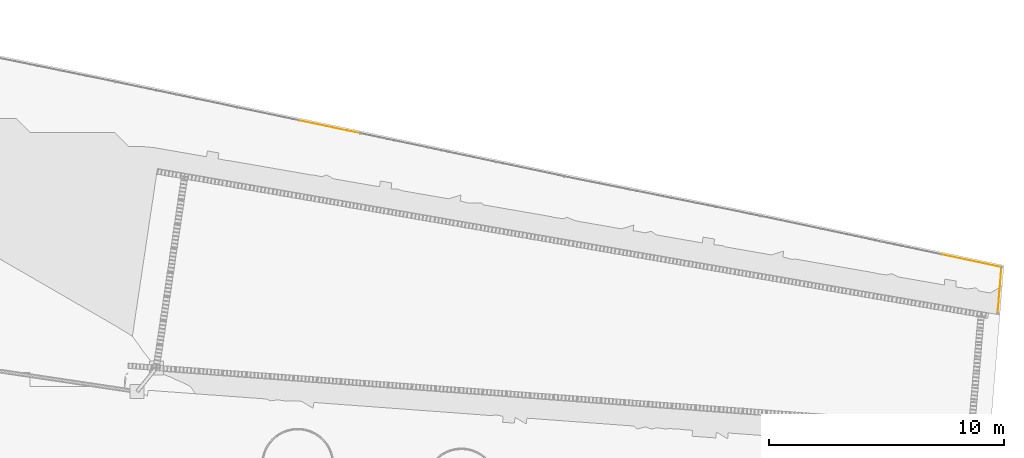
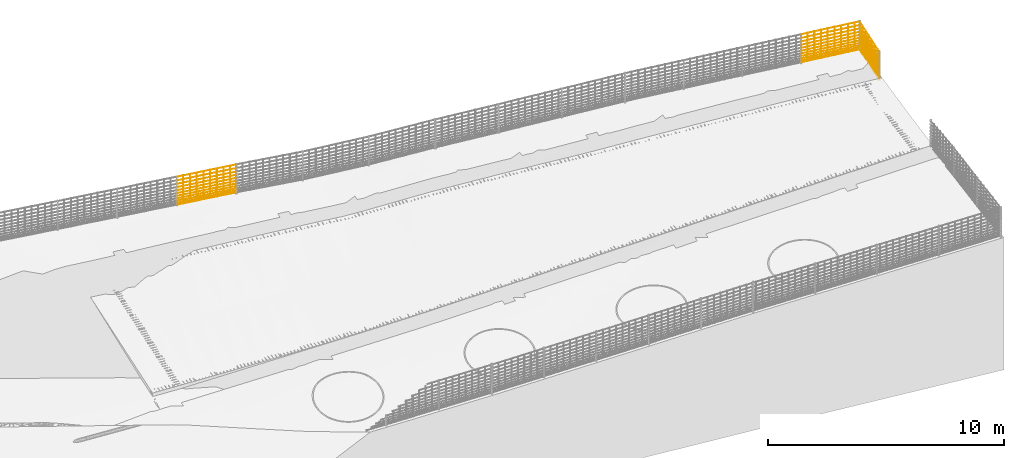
# Not in any storey, part 52 of 72: 3 railings.
"""IFC4 model written with IfcOpenShell, lengths in metres."""

from ifc_helpers import new_model, si_unit, direction, frame, origin_with_axes, place, context, subcontext, project, spatial, polygons, material, element, save


model = new_model("IFC4")

# Units and contexts
model_context = context("Model", 3, precision=1e-05, world=origin_with_axes(), true_north=direction((0.0, 1.0)))
body_context = subcontext(model_context, "Body", "Model", "MODEL_VIEW")
ifc_project = project(units=[si_unit("AREAUNIT", "SQUARE_METRE"), si_unit("VOLUMEUNIT", "CUBIC_METRE"), si_unit("LENGTHUNIT", "METRE")], contexts=[model_context])

# Site
site_placement = place(None, origin_with_axes())
site = spatial("IfcSite", under=ifc_project, at=site_placement, Name="Lares · Rua das Mercês · artigo 4771")

# Railings
ifc_material = material(Name="Aço galvanizado / Stahl verzinkt", Category="steel")
railing_1_placement = place(site_placement, frame((0.0, 0.0, 0.0), z_axis=(0.0, 0.0, 1.0), x_axis=(1.0, -1.03767253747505e-17, 0.0)))
element("IfcRailing", 1, at=railing_1_placement, inside=site, material=ifc_material, Name="Vedação · rede ovelheira 1.071", ObjectType="SHEEP_WIRE_FENCE", PredefinedType="USERDEFINED", context=body_context, shape_type="Tessellation", body=[
    polygons([(53.907056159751, 13.7524632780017, 15.3043091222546), (53.9073961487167, 13.7539246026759, 15.3028094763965), (53.9076723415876, 13.7553993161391, 15.3043091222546), (53.9073323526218, 13.7539379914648, 15.3058087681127), (56.5071773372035, 13.2067798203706, 15.3620506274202), (56.5075173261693, 13.2082411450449, 15.3605509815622), (56.5077935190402, 13.209715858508, 15.3620506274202), (56.5074535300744, 13.2082545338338, 15.3635502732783), (53.907056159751, 13.7524632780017, 15.4043091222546), (53.9073961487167, 13.7539246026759, 15.4028094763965), (53.9076723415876, 13.7553993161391, 15.4043091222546), (53.9073323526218, 13.7539379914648, 15.4058087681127), (56.5071773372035, 13.2067798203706, 15.4620506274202), (56.5075173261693, 13.2082411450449, 15.4605509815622), (56.5077935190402, 13.209715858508, 15.4620506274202), (56.5074535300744, 13.2082545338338, 15.4635502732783), (53.907056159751, 13.7524632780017, 15.5143091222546), (53.9073961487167, 13.7539246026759, 15.5128094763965), (53.9076723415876, 13.7553993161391, 15.5143091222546), (53.9073323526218, 13.7539379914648, 15.5158087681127), (56.5071773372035, 13.2067798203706, 15.5720506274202), (56.5075173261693, 13.2082411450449, 15.5705509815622), (56.5077935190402, 13.209715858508, 15.5720506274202), (56.5074535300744, 13.2082545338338, 15.5735502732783), (53.907056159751, 13.7524632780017, 15.6343091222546), (53.9073961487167, 13.7539246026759, 15.6328094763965), (53.9076723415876, 13.7553993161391, 15.6343091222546), (53.9073323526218, 13.7539379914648, 15.6358087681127), (56.5071773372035, 13.2067798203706, 15.6920506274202), (56.5075173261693, 13.2082411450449, 15.6905509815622), (56.5077935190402, 13.209715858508, 15.6920506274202), (56.5074535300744, 13.2082545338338, 15.6935502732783), (53.907056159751, 13.7524632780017, 15.7643091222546), (53.9073961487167, 13.7539246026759, 15.7628094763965), (53.9076723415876, 13.7553993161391, 15.7643091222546), (53.9073323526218, 13.7539379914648, 15.7658087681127), (56.5071773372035, 13.2067798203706, 15.8220506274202), (56.5075173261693, 13.2082411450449, 15.8205509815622), (56.5077935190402, 13.209715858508, 15.8220506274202), (56.5074535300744, 13.2082545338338, 15.8235502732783), (53.907056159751, 13.7524632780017, 15.9043091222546), (53.9073961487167, 13.7539246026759, 15.9028094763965), (53.9076723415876, 13.7553993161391, 15.9043091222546), (53.9073323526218, 13.7539379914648, 15.9058087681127), (56.5071773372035, 13.2067798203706, 15.9620506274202), (56.5075173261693, 13.2082411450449, 15.9605509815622), (56.5077935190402, 13.209715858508, 15.9620506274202), (56.5074535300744, 13.2082545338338, 15.9635502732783), (53.907056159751, 13.7524632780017, 16.0543091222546), (53.9073961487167, 13.7539246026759, 16.0528094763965), (53.9076723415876, 13.7553993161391, 16.0543091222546), (53.9073323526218, 13.7539379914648, 16.0558087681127), (56.5071773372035, 13.2067798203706, 16.1120506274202), (56.5075173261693, 13.2082411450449, 16.1105509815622), (56.5077935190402, 13.209715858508, 16.1120506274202), (56.5074535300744, 13.2082545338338, 16.1135502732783), (53.907056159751, 13.7524632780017, 16.2143091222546), (53.9073961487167, 13.7539246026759, 16.2128094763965), (53.9076723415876, 13.7553993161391, 16.2143091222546), (53.9073323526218, 13.7539379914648, 16.2158087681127), (56.5071773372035, 13.2067798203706, 16.2720506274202), (56.5075173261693, 13.2082411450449, 16.2705509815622), (56.5077935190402, 13.209715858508, 16.2720506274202), (56.5074535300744, 13.2082545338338, 16.2735502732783), (53.907056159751, 13.7524632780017, 16.3843091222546), (53.9073961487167, 13.7539246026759, 16.3828094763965), (53.9076723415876, 13.7553993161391, 16.3843091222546), (53.9073323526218, 13.7539379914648, 16.3858087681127), (56.5071773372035, 13.2067798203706, 16.4420506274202), (56.5075173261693, 13.2082411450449, 16.4405509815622), (56.5077935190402, 13.209715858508, 16.4420506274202), (56.5074535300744, 13.2082545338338, 16.4435502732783), (53.907056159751, 13.7524632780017, 16.5643091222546), (53.9073961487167, 13.7539246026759, 16.5628094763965), (53.9076723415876, 13.7553993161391, 16.5643091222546), (53.9073323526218, 13.7539379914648, 16.5658087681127), (56.5071773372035, 13.2067798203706, 16.6220506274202), (56.5075173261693, 13.2082411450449, 16.6205509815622), (56.5077935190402, 13.209715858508, 16.6220506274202), (56.5074535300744, 13.2082545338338, 16.6235502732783), (53.907056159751, 13.7524632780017, 16.7543091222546), (53.9073961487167, 13.7539246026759, 16.7528094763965), (53.9076723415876, 13.7553993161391, 16.7543091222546), (53.9073323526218, 13.7539379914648, 16.7558087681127), (56.5071773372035, 13.2067798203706, 16.8120506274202), (56.5075173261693, 13.2082411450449, 16.8105509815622), (56.5077935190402, 13.209715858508, 16.8120506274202), (56.5074535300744, 13.2082545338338, 16.8135502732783), (54.2009680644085, 13.6938131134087, 15.3108292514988), (54.1994680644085, 13.6923131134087, 15.3108292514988), (54.2009680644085, 13.6908131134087, 15.3108292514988), (54.2024680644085, 13.6923131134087, 15.3108292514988), (54.2009680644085, 13.6938131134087, 16.7608292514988), (54.1994680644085, 13.6923131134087, 16.7608292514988), (54.2009680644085, 13.6908131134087, 16.7608292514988), (54.2024680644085, 13.6923131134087, 16.7608292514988), (54.4945718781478, 13.632194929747, 15.3173493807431), (54.4930718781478, 13.630694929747, 15.3173493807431), (54.4945718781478, 13.629194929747, 15.3173493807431), (54.4960718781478, 13.630694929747, 15.3173493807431), (54.4945718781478, 13.632194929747, 16.7673493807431), (54.4930718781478, 13.630694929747, 16.7673493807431), (54.4945718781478, 13.629194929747, 16.7673493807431), (54.4960718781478, 13.630694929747, 16.7673493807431), (54.788175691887, 13.5705767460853, 15.3238695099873), (54.786675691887, 13.5690767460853, 15.3238695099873), (54.788175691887, 13.5675767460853, 15.3238695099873), (54.789675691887, 13.5690767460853, 15.3238695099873), (54.788175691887, 13.5705767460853, 16.7738695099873), (54.786675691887, 13.5690767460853, 16.7738695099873), (54.788175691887, 13.5675767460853, 16.7738695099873), (54.789675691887, 13.5690767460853, 16.7738695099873), (55.0817795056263, 13.5089585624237, 15.3303896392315), (55.0802795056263, 13.5074585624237, 15.3303896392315), (55.0817795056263, 13.5059585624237, 15.3303896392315), (55.0832795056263, 13.5074585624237, 15.3303896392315), (55.0817795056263, 13.5089585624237, 16.7803896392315), (55.0802795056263, 13.5074585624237, 16.7803896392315), (55.0817795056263, 13.5059585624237, 16.7803896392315), (55.0832795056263, 13.5074585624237, 16.7803896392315), (55.3753833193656, 13.447340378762, 15.3369097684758), (55.3738833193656, 13.445840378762, 15.3369097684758), (55.3753833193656, 13.444340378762, 15.3369097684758), (55.3768833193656, 13.445840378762, 15.3369097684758), (55.3753833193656, 13.447340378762, 16.7869097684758), (55.3738833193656, 13.445840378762, 16.7869097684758), (55.3753833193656, 13.444340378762, 16.7869097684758), (55.3768833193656, 13.445840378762, 16.7869097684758), (55.6689871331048, 13.3857221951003, 15.34342989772), (55.6674871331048, 13.3842221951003, 15.34342989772), (55.6689871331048, 13.3827221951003, 15.34342989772), (55.6704871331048, 13.3842221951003, 15.34342989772), (55.6689871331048, 13.3857221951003, 16.79342989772), (55.6674871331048, 13.3842221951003, 16.79342989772), (55.6689871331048, 13.3827221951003, 16.79342989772), (55.6704871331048, 13.3842221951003, 16.79342989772), (55.9625909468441, 13.3241040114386, 15.3499500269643), (55.9610909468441, 13.3226040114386, 15.3499500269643), (55.9625909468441, 13.3211040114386, 15.3499500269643), (55.9640909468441, 13.3226040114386, 15.3499500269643), (55.9625909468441, 13.3241040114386, 16.7999500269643), (55.9610909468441, 13.3226040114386, 16.7999500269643), (55.9625909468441, 13.3211040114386, 16.7999500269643), (55.9640909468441, 13.3226040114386, 16.7999500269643), (56.2561947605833, 13.2624858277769, 15.3564701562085), (56.2546947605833, 13.2609858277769, 15.3564701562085), (56.2561947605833, 13.2594858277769, 15.3564701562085), (56.2576947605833, 13.2609858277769, 15.3564701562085), (56.2561947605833, 13.2624858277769, 16.8064701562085), (56.2546947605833, 13.2609858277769, 16.8064701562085), (56.2561947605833, 13.2594858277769, 16.8064701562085), (56.2576947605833, 13.2609858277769, 16.8064701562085)], [[[4, 3, 2, 1]], [[5, 6, 7, 8]], [[1, 2, 6, 5]], [[2, 3, 7, 6]], [[3, 4, 8, 7]], [[4, 1, 5, 8]], [[12, 11, 10, 9]], [[13, 14, 15, 16]], [[9, 10, 14, 13]], [[10, 11, 15, 14]], [[11, 12, 16, 15]], [[12, 9, 13, 16]], [[20, 19, 18, 17]], [[21, 22, 23, 24]], [[17, 18, 22, 21]], [[18, 19, 23, 22]], [[19, 20, 24, 23]], [[20, 17, 21, 24]], [[28, 27, 26, 25]], [[29, 30, 31, 32]], [[25, 26, 30, 29]], [[26, 27, 31, 30]], [[27, 28, 32, 31]], [[28, 25, 29, 32]], [[36, 35, 34, 33]], [[37, 38, 39, 40]], [[33, 34, 38, 37]], [[34, 35, 39, 38]], [[35, 36, 40, 39]], [[36, 33, 37, 40]], [[44, 43, 42, 41]], [[45, 46, 47, 48]], [[41, 42, 46, 45]], [[42, 43, 47, 46]], [[43, 44, 48, 47]], [[44, 41, 45, 48]], [[52, 51, 50, 49]], [[53, 54, 55, 56]], [[49, 50, 54, 53]], [[50, 51, 55, 54]], [[51, 52, 56, 55]], [[52, 49, 53, 56]], [[60, 59, 58, 57]], [[61, 62, 63, 64]], [[57, 58, 62, 61]], [[58, 59, 63, 62]], [[59, 60, 64, 63]], [[60, 57, 61, 64]], [[68, 67, 66, 65]], [[69, 70, 71, 72]], [[65, 66, 70, 69]], [[66, 67, 71, 70]], [[67, 68, 72, 71]], [[68, 65, 69, 72]], [[76, 75, 74, 73]], [[77, 78, 79, 80]], [[73, 74, 78, 77]], [[74, 75, 79, 78]], [[75, 76, 80, 79]], [[76, 73, 77, 80]], [[84, 83, 82, 81]], [[85, 86, 87, 88]], [[81, 82, 86, 85]], [[82, 83, 87, 86]], [[83, 84, 88, 87]], [[84, 81, 85, 88]], [[92, 91, 90, 89]], [[93, 94, 95, 96]], [[89, 90, 94, 93]], [[90, 91, 95, 94]], [[91, 92, 96, 95]], [[92, 89, 93, 96]], [[100, 99, 98, 97]], [[101, 102, 103, 104]], [[97, 98, 102, 101]], [[98, 99, 103, 102]], [[99, 100, 104, 103]], [[100, 97, 101, 104]], [[108, 107, 106, 105]], [[109, 110, 111, 112]], [[105, 106, 110, 109]], [[106, 107, 111, 110]], [[107, 108, 112, 111]], [[108, 105, 109, 112]], [[116, 115, 114, 113]], [[117, 118, 119, 120]], [[113, 114, 118, 117]], [[114, 115, 119, 118]], [[115, 116, 120, 119]], [[116, 113, 117, 120]], [[124, 123, 122, 121]], [[125, 126, 127, 128]], [[121, 122, 126, 125]], [[122, 123, 127, 126]], [[123, 124, 128, 127]], [[124, 121, 125, 128]], [[132, 131, 130, 129]], [[133, 134, 135, 136]], [[129, 130, 134, 133]], [[130, 131, 135, 134]], [[131, 132, 136, 135]], [[132, 129, 133, 136]], [[140, 139, 138, 137]], [[141, 142, 143, 144]], [[137, 138, 142, 141]], [[138, 139, 143, 142]], [[139, 140, 144, 143]], [[140, 137, 141, 144]], [[148, 147, 146, 145]], [[149, 150, 151, 152]], [[145, 146, 150, 149]], [[146, 147, 151, 150]], [[147, 148, 152, 151]], [[148, 145, 149, 152]]]),
])
railing_2_placement = place(site_placement, frame((0.0, 0.0, 0.0), z_axis=(0.0, 0.0, 1.0), x_axis=(1.0, -1.03767253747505e-17, 0.0)))
element("IfcRailing", 2, at=railing_2_placement, inside=site, material=ifc_material, Name="Vedação · rede ovelheira 1.081", ObjectType="SHEEP_WIRE_FENCE", PredefinedType="USERDEFINED", context=body_context, shape_type="Tessellation", body=[
    polygons([(81.1994992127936, 8.05895956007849, 16.5765702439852), (81.1998700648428, 8.06041425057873, 16.5750714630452), (81.2001226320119, 8.0618940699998, 16.5765702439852), (81.1997517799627, 8.06043937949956, 16.5780690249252), (83.7589950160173, 7.51520986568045, 16.6821271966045), (83.7593658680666, 7.51666455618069, 16.6806284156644), (83.7596184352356, 7.51814437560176, 16.6821271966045), (83.7592475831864, 7.51668968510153, 16.6836259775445), (81.1994992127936, 8.05895956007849, 16.6765702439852), (81.1998700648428, 8.06041425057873, 16.6750714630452), (81.2001226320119, 8.0618940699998, 16.6765702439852), (81.1997517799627, 8.06043937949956, 16.6780690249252), (83.7589950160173, 7.51520986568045, 16.7821271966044), (83.7593658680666, 7.51666455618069, 16.7806284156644), (83.7596184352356, 7.51814437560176, 16.7821271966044), (83.7592475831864, 7.51668968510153, 16.7836259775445), (81.1994992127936, 8.05895956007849, 16.7865702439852), (81.1998700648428, 8.06041425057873, 16.7850714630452), (81.2001226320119, 8.0618940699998, 16.7865702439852), (81.1997517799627, 8.06043937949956, 16.7880690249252), (83.7589950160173, 7.51520986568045, 16.8921271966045), (83.7593658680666, 7.51666455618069, 16.8906284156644), (83.7596184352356, 7.51814437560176, 16.8921271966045), (83.7592475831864, 7.51668968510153, 16.8936259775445), (81.1994992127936, 8.05895956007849, 16.9065702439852), (81.1998700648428, 8.06041425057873, 16.9050714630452), (81.2001226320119, 8.0618940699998, 16.9065702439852), (81.1997517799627, 8.06043937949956, 16.9080690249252), (83.7589950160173, 7.51520986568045, 17.0121271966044), (83.7593658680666, 7.51666455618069, 17.0106284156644), (83.7596184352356, 7.51814437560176, 17.0121271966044), (83.7592475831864, 7.51668968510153, 17.0136259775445), (81.1994992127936, 8.05895956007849, 17.0365702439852), (81.1998700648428, 8.06041425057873, 17.0350714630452), (81.2001226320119, 8.0618940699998, 17.0365702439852), (81.1997517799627, 8.06043937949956, 17.0380690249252), (83.7589950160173, 7.51520986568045, 17.1421271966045), (83.7593658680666, 7.51666455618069, 17.1406284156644), (83.7596184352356, 7.51814437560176, 17.1421271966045), (83.7592475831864, 7.51668968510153, 17.1436259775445), (81.1994992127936, 8.05895956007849, 17.1765702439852), (81.1998700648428, 8.06041425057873, 17.1750714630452), (81.2001226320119, 8.0618940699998, 17.1765702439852), (81.1997517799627, 8.06043937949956, 17.1780690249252), (83.7589950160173, 7.51520986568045, 17.2821271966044), (83.7593658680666, 7.51666455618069, 17.2806284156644), (83.7596184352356, 7.51814437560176, 17.2821271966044), (83.7592475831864, 7.51668968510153, 17.2836259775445), (81.1994992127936, 8.05895956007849, 17.3265702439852), (81.1998700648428, 8.06041425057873, 17.3250714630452), (81.2001226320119, 8.0618940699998, 17.3265702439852), (81.1997517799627, 8.06043937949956, 17.3280690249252), (83.7589950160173, 7.51520986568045, 17.4321271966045), (83.7593658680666, 7.51666455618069, 17.4306284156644), (83.7596184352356, 7.51814437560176, 17.4321271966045), (83.7592475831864, 7.51668968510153, 17.4336259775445), (81.1994992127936, 8.05895956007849, 17.4865702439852), (81.1998700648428, 8.06041425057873, 17.4850714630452), (81.2001226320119, 8.0618940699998, 17.4865702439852), (81.1997517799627, 8.06043937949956, 17.4880690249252), (83.7589950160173, 7.51520986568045, 17.5921271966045), (83.7593658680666, 7.51666455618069, 17.5906284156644), (83.7596184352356, 7.51814437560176, 17.5921271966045), (83.7592475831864, 7.51668968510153, 17.5936259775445), (81.1994992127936, 8.05895956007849, 17.6565702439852), (81.1998700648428, 8.06041425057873, 17.6550714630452), (81.2001226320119, 8.0618940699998, 17.6565702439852), (81.1997517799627, 8.06043937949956, 17.6580690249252), (83.7589950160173, 7.51520986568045, 17.7621271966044), (83.7593658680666, 7.51666455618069, 17.7606284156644), (83.7596184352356, 7.51814437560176, 17.7621271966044), (83.7592475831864, 7.51668968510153, 17.7636259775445), (81.1994992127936, 8.05895956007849, 17.8365702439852), (81.1998700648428, 8.06041425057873, 17.8350714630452), (81.2001226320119, 8.0618940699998, 17.8365702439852), (81.1997517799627, 8.06043937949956, 17.8380690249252), (83.7589950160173, 7.51520986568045, 17.9421271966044), (83.7593658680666, 7.51666455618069, 17.9406284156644), (83.7596184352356, 7.51814437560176, 17.9421271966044), (83.7592475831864, 7.51668968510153, 17.9436259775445), (81.1994992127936, 8.05895956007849, 18.0265702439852), (81.1998700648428, 8.06041425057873, 18.0250714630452), (81.2001226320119, 8.0618940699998, 18.0265702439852), (81.1997517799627, 8.06043937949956, 18.0280690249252), (83.7589950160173, 7.51520986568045, 18.1321271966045), (83.7593658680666, 7.51666455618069, 18.1306284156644), (83.7596184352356, 7.51814437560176, 18.1321271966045), (83.7592475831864, 7.51668968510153, 18.1336259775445), (81.4932619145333, 7.99958489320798, 16.5886725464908), (81.4917619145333, 7.99808489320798, 16.5886725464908), (81.4932619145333, 7.99658489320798, 16.5886725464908), (81.4947619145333, 7.99808489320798, 16.5886725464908), (81.4932619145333, 7.99958489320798, 18.0386725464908), (81.4917619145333, 7.99808489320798, 18.0386725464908), (81.4932619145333, 7.99658489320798, 18.0386725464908), (81.4947619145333, 7.99808489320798, 18.0386725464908), (81.7867129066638, 7.93724297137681, 16.6007748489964), (81.7852129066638, 7.93574297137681, 16.6007748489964), (81.7867129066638, 7.93424297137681, 16.6007748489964), (81.7882129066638, 7.93574297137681, 16.6007748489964), (81.7867129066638, 7.93724297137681, 18.0507748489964), (81.7852129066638, 7.93574297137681, 18.0507748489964), (81.7867129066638, 7.93424297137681, 18.0507748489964), (81.7882129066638, 7.93574297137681, 18.0507748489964), (82.0801638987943, 7.87490104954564, 16.612877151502), (82.0786638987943, 7.87340104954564, 16.612877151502), (82.0801638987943, 7.87190104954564, 16.612877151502), (82.0816638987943, 7.87340104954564, 16.612877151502), (82.0801638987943, 7.87490104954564, 18.062877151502), (82.0786638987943, 7.87340104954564, 18.062877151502), (82.0801638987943, 7.87190104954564, 18.062877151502), (82.0816638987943, 7.87340104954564, 18.062877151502), (82.3736148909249, 7.81255912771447, 16.6249794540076), (82.3721148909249, 7.81105912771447, 16.6249794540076), (82.3736148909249, 7.80955912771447, 16.6249794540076), (82.3751148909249, 7.81105912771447, 16.6249794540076), (82.3736148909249, 7.81255912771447, 18.0749794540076), (82.3721148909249, 7.81105912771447, 18.0749794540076), (82.3736148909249, 7.80955912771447, 18.0749794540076), (82.3751148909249, 7.81105912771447, 18.0749794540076), (82.6670658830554, 7.7502172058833, 16.6370817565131), (82.6655658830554, 7.7487172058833, 16.6370817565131), (82.6670658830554, 7.7472172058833, 16.6370817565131), (82.6685658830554, 7.7487172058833, 16.6370817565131), (82.6670658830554, 7.7502172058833, 18.0870817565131), (82.6655658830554, 7.7487172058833, 18.0870817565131), (82.6670658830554, 7.7472172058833, 18.0870817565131), (82.6685658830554, 7.7487172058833, 18.0870817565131), (82.960516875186, 7.68787528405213, 16.6491840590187), (82.959016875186, 7.68637528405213, 16.6491840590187), (82.960516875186, 7.68487528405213, 16.6491840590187), (82.962016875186, 7.68637528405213, 16.6491840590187), (82.960516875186, 7.68787528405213, 18.0991840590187), (82.959016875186, 7.68637528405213, 18.0991840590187), (82.960516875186, 7.68487528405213, 18.0991840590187), (82.962016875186, 7.68637528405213, 18.0991840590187), (83.2539678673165, 7.62553336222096, 16.6612863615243), (83.2524678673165, 7.62403336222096, 16.6612863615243), (83.2539678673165, 7.62253336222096, 16.6612863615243), (83.2554678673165, 7.62403336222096, 16.6612863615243), (83.2539678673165, 7.62553336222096, 18.1112863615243), (83.2524678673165, 7.62403336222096, 18.1112863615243), (83.2539678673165, 7.62253336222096, 18.1112863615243), (83.2554678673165, 7.62403336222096, 18.1112863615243), (83.547418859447, 7.56319144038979, 16.6733886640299), (83.545918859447, 7.56169144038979, 16.6733886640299), (83.547418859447, 7.56019144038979, 16.6733886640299), (83.548918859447, 7.56169144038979, 16.6733886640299), (83.547418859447, 7.56319144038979, 18.1233886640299), (83.545918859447, 7.56169144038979, 18.1233886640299), (83.547418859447, 7.56019144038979, 18.1233886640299), (83.548918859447, 7.56169144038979, 18.1233886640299)], [[[4, 3, 2, 1]], [[5, 6, 7, 8]], [[1, 2, 6, 5]], [[2, 3, 7, 6]], [[3, 4, 8, 7]], [[4, 1, 5, 8]], [[12, 11, 10, 9]], [[13, 14, 15, 16]], [[9, 10, 14, 13]], [[10, 11, 15, 14]], [[11, 12, 16, 15]], [[12, 9, 13, 16]], [[20, 19, 18, 17]], [[21, 22, 23, 24]], [[17, 18, 22, 21]], [[18, 19, 23, 22]], [[19, 20, 24, 23]], [[20, 17, 21, 24]], [[28, 27, 26, 25]], [[29, 30, 31, 32]], [[25, 26, 30, 29]], [[26, 27, 31, 30]], [[27, 28, 32, 31]], [[28, 25, 29, 32]], [[36, 35, 34, 33]], [[37, 38, 39, 40]], [[33, 34, 38, 37]], [[34, 35, 39, 38]], [[35, 36, 40, 39]], [[36, 33, 37, 40]], [[44, 43, 42, 41]], [[45, 46, 47, 48]], [[41, 42, 46, 45]], [[42, 43, 47, 46]], [[43, 44, 48, 47]], [[44, 41, 45, 48]], [[52, 51, 50, 49]], [[53, 54, 55, 56]], [[49, 50, 54, 53]], [[50, 51, 55, 54]], [[51, 52, 56, 55]], [[52, 49, 53, 56]], [[60, 59, 58, 57]], [[61, 62, 63, 64]], [[57, 58, 62, 61]], [[58, 59, 63, 62]], [[59, 60, 64, 63]], [[60, 57, 61, 64]], [[68, 67, 66, 65]], [[69, 70, 71, 72]], [[65, 66, 70, 69]], [[66, 67, 71, 70]], [[67, 68, 72, 71]], [[68, 65, 69, 72]], [[76, 75, 74, 73]], [[77, 78, 79, 80]], [[73, 74, 78, 77]], [[74, 75, 79, 78]], [[75, 76, 80, 79]], [[76, 73, 77, 80]], [[84, 83, 82, 81]], [[85, 86, 87, 88]], [[81, 82, 86, 85]], [[82, 83, 87, 86]], [[83, 84, 88, 87]], [[84, 81, 85, 88]], [[92, 91, 90, 89]], [[93, 94, 95, 96]], [[89, 90, 94, 93]], [[90, 91, 95, 94]], [[91, 92, 96, 95]], [[92, 89, 93, 96]], [[100, 99, 98, 97]], [[101, 102, 103, 104]], [[97, 98, 102, 101]], [[98, 99, 103, 102]], [[99, 100, 104, 103]], [[100, 97, 101, 104]], [[108, 107, 106, 105]], [[109, 110, 111, 112]], [[105, 106, 110, 109]], [[106, 107, 111, 110]], [[107, 108, 112, 111]], [[108, 105, 109, 112]], [[116, 115, 114, 113]], [[117, 118, 119, 120]], [[113, 114, 118, 117]], [[114, 115, 119, 118]], [[115, 116, 120, 119]], [[116, 113, 117, 120]], [[124, 123, 122, 121]], [[125, 126, 127, 128]], [[121, 122, 126, 125]], [[122, 123, 127, 126]], [[123, 124, 128, 127]], [[124, 121, 125, 128]], [[132, 131, 130, 129]], [[133, 134, 135, 136]], [[129, 130, 134, 133]], [[130, 131, 135, 134]], [[131, 132, 136, 135]], [[132, 129, 133, 136]], [[140, 139, 138, 137]], [[141, 142, 143, 144]], [[137, 138, 142, 141]], [[138, 139, 143, 142]], [[139, 140, 144, 143]], [[140, 137, 141, 144]], [[148, 147, 146, 145]], [[149, 150, 151, 152]], [[145, 146, 150, 149]], [[146, 147, 151, 150]], [[147, 148, 152, 151]], [[148, 145, 149, 152]]]),
])
railing_3_placement = place(site_placement, frame((0.0, 0.0, 0.0), z_axis=(0.0, 0.0, 1.0), x_axis=(1.0, -1.03767253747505e-17, 0.0)))
element("IfcRailing", 3, at=railing_3_placement, inside=site, material=ifc_material, Name="Vedação · rede ovelheira 1.082", ObjectType="SHEEP_WIRE_FENCE", PredefinedType="USERDEFINED", context=body_context, shape_type="Tessellation", body=[
    polygons([(83.7578117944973, 7.51680033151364, 16.6821271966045), (83.7593273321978, 7.51692714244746, 16.6806483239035), (83.7608016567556, 7.51655390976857, 16.6821271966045), (83.7592861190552, 7.51642709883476, 16.6836060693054), (83.5964427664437, 5.55889208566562, 16.3488699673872), (83.5979583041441, 5.55901889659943, 16.3473910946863), (83.599432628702, 5.55864566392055, 16.3488699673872), (83.5979170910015, 5.55851885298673, 16.3503488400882), (83.7578117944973, 7.51680033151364, 16.7821271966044), (83.7593273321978, 7.51692714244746, 16.7806483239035), (83.7608016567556, 7.51655390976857, 16.7821271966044), (83.7592861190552, 7.51642709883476, 16.7836060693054), (83.5964427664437, 5.55889208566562, 16.4488699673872), (83.5979583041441, 5.55901889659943, 16.4473910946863), (83.599432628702, 5.55864566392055, 16.4488699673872), (83.5979170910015, 5.55851885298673, 16.4503488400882), (83.7578117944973, 7.51680033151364, 16.8921271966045), (83.7593273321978, 7.51692714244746, 16.8906483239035), (83.7608016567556, 7.51655390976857, 16.8921271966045), (83.7592861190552, 7.51642709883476, 16.8936060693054), (83.5964427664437, 5.55889208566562, 16.5588699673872), (83.5979583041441, 5.55901889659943, 16.5573910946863), (83.599432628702, 5.55864566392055, 16.5588699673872), (83.5979170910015, 5.55851885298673, 16.5603488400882), (83.7578117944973, 7.51680033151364, 17.0121271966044), (83.7593273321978, 7.51692714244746, 17.0106483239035), (83.7608016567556, 7.51655390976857, 17.0121271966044), (83.7592861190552, 7.51642709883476, 17.0136060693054), (83.5964427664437, 5.55889208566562, 16.6788699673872), (83.5979583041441, 5.55901889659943, 16.6773910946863), (83.599432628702, 5.55864566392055, 16.6788699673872), (83.5979170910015, 5.55851885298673, 16.6803488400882), (83.7578117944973, 7.51680033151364, 17.1421271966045), (83.7593273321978, 7.51692714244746, 17.1406483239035), (83.7608016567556, 7.51655390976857, 17.1421271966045), (83.7592861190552, 7.51642709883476, 17.1436060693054), (83.5964427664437, 5.55889208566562, 16.8088699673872), (83.5979583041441, 5.55901889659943, 16.8073910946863), (83.599432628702, 5.55864566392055, 16.8088699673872), (83.5979170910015, 5.55851885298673, 16.8103488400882), (83.7578117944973, 7.51680033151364, 17.2821271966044), (83.7593273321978, 7.51692714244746, 17.2806483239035), (83.7608016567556, 7.51655390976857, 17.2821271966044), (83.7592861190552, 7.51642709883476, 17.2836060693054), (83.5964427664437, 5.55889208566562, 16.9488699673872), (83.5979583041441, 5.55901889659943, 16.9473910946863), (83.599432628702, 5.55864566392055, 16.9488699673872), (83.5979170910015, 5.55851885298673, 16.9503488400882), (83.7578117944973, 7.51680033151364, 17.4321271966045), (83.7593273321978, 7.51692714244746, 17.4306483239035), (83.7608016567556, 7.51655390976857, 17.4321271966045), (83.7592861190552, 7.51642709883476, 17.4336060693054), (83.5964427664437, 5.55889208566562, 17.0988699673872), (83.5979583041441, 5.55901889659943, 17.0973910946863), (83.599432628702, 5.55864566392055, 17.0988699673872), (83.5979170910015, 5.55851885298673, 17.1003488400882), (83.7578117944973, 7.51680033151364, 17.5921271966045), (83.7593273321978, 7.51692714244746, 17.5906483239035), (83.7608016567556, 7.51655390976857, 17.5921271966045), (83.7592861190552, 7.51642709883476, 17.5936060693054), (83.5964427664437, 5.55889208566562, 17.2588699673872), (83.5979583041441, 5.55901889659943, 17.2573910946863), (83.599432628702, 5.55864566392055, 17.2588699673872), (83.5979170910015, 5.55851885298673, 17.2603488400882), (83.7578117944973, 7.51680033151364, 17.7621271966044), (83.7593273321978, 7.51692714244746, 17.7606483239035), (83.7608016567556, 7.51655390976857, 17.7621271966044), (83.7592861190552, 7.51642709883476, 17.7636060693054), (83.5964427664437, 5.55889208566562, 17.4288699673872), (83.5979583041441, 5.55901889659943, 17.4273910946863), (83.599432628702, 5.55864566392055, 17.4288699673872), (83.5979170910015, 5.55851885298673, 17.4303488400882), (83.7578117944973, 7.51680033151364, 17.9421271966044), (83.7593273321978, 7.51692714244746, 17.9406483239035), (83.7608016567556, 7.51655390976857, 17.9421271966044), (83.7592861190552, 7.51642709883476, 17.9436060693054), (83.5964427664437, 5.55889208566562, 17.6088699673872), (83.5979583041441, 5.55901889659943, 17.6073910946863), (83.599432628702, 5.55864566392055, 17.6088699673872), (83.5979170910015, 5.55851885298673, 17.6103488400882), (83.7578117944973, 7.51680033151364, 18.1321271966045), (83.7593273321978, 7.51692714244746, 18.1306483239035), (83.7608016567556, 7.51655390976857, 18.1321271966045), (83.7592861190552, 7.51642709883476, 18.1336060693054), (83.5964427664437, 5.55889208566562, 17.7988699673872), (83.5979583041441, 5.55901889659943, 17.7973910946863), (83.599432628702, 5.55864566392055, 17.7988699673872), (83.5979170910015, 5.55851885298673, 17.8003488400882), (83.7346645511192, 7.21919089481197, 16.6312364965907), (83.7331645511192, 7.21769089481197, 16.6312364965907), (83.7346645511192, 7.21619089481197, 16.6312364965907), (83.7361645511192, 7.21769089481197, 16.6312364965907), (83.7346645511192, 7.21919089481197, 18.0812364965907), (83.7331645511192, 7.21769089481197, 18.0812364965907), (83.7346645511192, 7.21619089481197, 18.0812364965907), (83.7361645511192, 7.21769089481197, 18.0812364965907), (83.7100223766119, 6.92020466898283, 16.5803457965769), (83.7085223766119, 6.91870466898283, 16.5803457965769), (83.7100223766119, 6.91720466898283, 16.5803457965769), (83.7115223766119, 6.91870466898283, 16.5803457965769), (83.7100223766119, 6.92020466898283, 18.0303457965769), (83.7085223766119, 6.91870466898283, 18.0303457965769), (83.7100223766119, 6.91720466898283, 18.0303457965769), (83.7115223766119, 6.91870466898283, 18.0303457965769), (83.6853802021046, 6.6212184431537, 16.5294550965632), (83.6838802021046, 6.6197184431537, 16.5294550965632), (83.6853802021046, 6.6182184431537, 16.5294550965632), (83.6868802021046, 6.6197184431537, 16.5294550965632), (83.6853802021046, 6.6212184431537, 17.9794550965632), (83.6838802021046, 6.6197184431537, 17.9794550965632), (83.6853802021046, 6.6182184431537, 17.9794550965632), (83.6868802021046, 6.6197184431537, 17.9794550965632), (83.6607380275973, 6.32223221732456, 16.4785643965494), (83.6592380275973, 6.32073221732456, 16.4785643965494), (83.6607380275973, 6.31923221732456, 16.4785643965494), (83.6622380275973, 6.32073221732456, 16.4785643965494), (83.6607380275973, 6.32223221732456, 17.9285643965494), (83.6592380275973, 6.32073221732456, 17.9285643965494), (83.6607380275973, 6.31923221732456, 17.9285643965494), (83.6622380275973, 6.32073221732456, 17.9285643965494), (83.63609585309, 6.02324599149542, 16.4276736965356), (83.63459585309, 6.02174599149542, 16.4276736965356), (83.63609585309, 6.02024599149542, 16.4276736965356), (83.6375958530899, 6.02174599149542, 16.4276736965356), (83.63609585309, 6.02324599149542, 17.8776736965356), (83.63459585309, 6.02174599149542, 17.8776736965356), (83.63609585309, 6.02024599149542, 17.8776736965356), (83.6375958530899, 6.02174599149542, 17.8776736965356), (83.6114536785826, 5.72425976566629, 16.3767829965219), (83.6099536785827, 5.72275976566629, 16.3767829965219), (83.6114536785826, 5.72125976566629, 16.3767829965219), (83.6129536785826, 5.72275976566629, 16.3767829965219), (83.6114536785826, 5.72425976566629, 17.8267829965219), (83.6099536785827, 5.72275976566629, 17.8267829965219), (83.6114536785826, 5.72125976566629, 17.8267829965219), (83.6129536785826, 5.72275976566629, 17.8267829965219)], [[[4, 3, 2, 1]], [[5, 6, 7, 8]], [[1, 2, 6, 5]], [[2, 3, 7, 6]], [[3, 4, 8, 7]], [[4, 1, 5, 8]], [[12, 11, 10, 9]], [[13, 14, 15, 16]], [[9, 10, 14, 13]], [[10, 11, 15, 14]], [[11, 12, 16, 15]], [[12, 9, 13, 16]], [[20, 19, 18, 17]], [[21, 22, 23, 24]], [[17, 18, 22, 21]], [[18, 19, 23, 22]], [[19, 20, 24, 23]], [[20, 17, 21, 24]], [[28, 27, 26, 25]], [[29, 30, 31, 32]], [[25, 26, 30, 29]], [[26, 27, 31, 30]], [[27, 28, 32, 31]], [[28, 25, 29, 32]], [[36, 35, 34, 33]], [[37, 38, 39, 40]], [[33, 34, 38, 37]], [[34, 35, 39, 38]], [[35, 36, 40, 39]], [[36, 33, 37, 40]], [[44, 43, 42, 41]], [[45, 46, 47, 48]], [[41, 42, 46, 45]], [[42, 43, 47, 46]], [[43, 44, 48, 47]], [[44, 41, 45, 48]], [[52, 51, 50, 49]], [[53, 54, 55, 56]], [[49, 50, 54, 53]], [[50, 51, 55, 54]], [[51, 52, 56, 55]], [[52, 49, 53, 56]], [[60, 59, 58, 57]], [[61, 62, 63, 64]], [[57, 58, 62, 61]], [[58, 59, 63, 62]], [[59, 60, 64, 63]], [[60, 57, 61, 64]], [[68, 67, 66, 65]], [[69, 70, 71, 72]], [[65, 66, 70, 69]], [[66, 67, 71, 70]], [[67, 68, 72, 71]], [[68, 65, 69, 72]], [[76, 75, 74, 73]], [[77, 78, 79, 80]], [[73, 74, 78, 77]], [[74, 75, 79, 78]], [[75, 76, 80, 79]], [[76, 73, 77, 80]], [[84, 83, 82, 81]], [[85, 86, 87, 88]], [[81, 82, 86, 85]], [[82, 83, 87, 86]], [[83, 84, 88, 87]], [[84, 81, 85, 88]], [[92, 91, 90, 89]], [[93, 94, 95, 96]], [[89, 90, 94, 93]], [[90, 91, 95, 94]], [[91, 92, 96, 95]], [[92, 89, 93, 96]], [[100, 99, 98, 97]], [[101, 102, 103, 104]], [[97, 98, 102, 101]], [[98, 99, 103, 102]], [[99, 100, 104, 103]], [[100, 97, 101, 104]], [[108, 107, 106, 105]], [[109, 110, 111, 112]], [[105, 106, 110, 109]], [[106, 107, 111, 110]], [[107, 108, 112, 111]], [[108, 105, 109, 112]], [[116, 115, 114, 113]], [[117, 118, 119, 120]], [[113, 114, 118, 117]], [[114, 115, 119, 118]], [[115, 116, 120, 119]], [[116, 113, 117, 120]], [[124, 123, 122, 121]], [[125, 126, 127, 128]], [[121, 122, 126, 125]], [[122, 123, 127, 126]], [[123, 124, 128, 127]], [[124, 121, 125, 128]], [[132, 131, 130, 129]], [[133, 134, 135, 136]], [[129, 130, 134, 133]], [[130, 131, 135, 134]], [[131, 132, 136, 135]], [[132, 129, 133, 136]]]),
])

save(model, "model.ifc")
